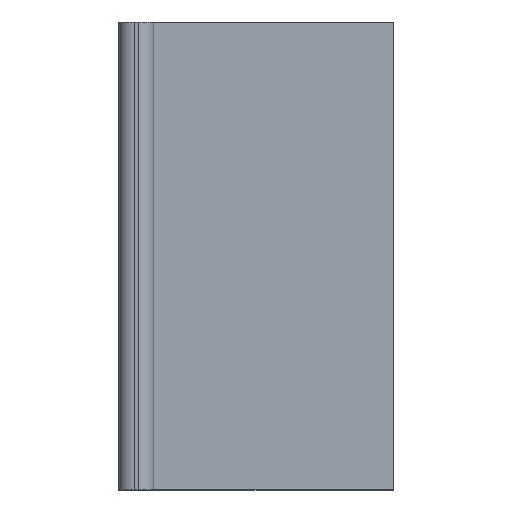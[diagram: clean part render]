
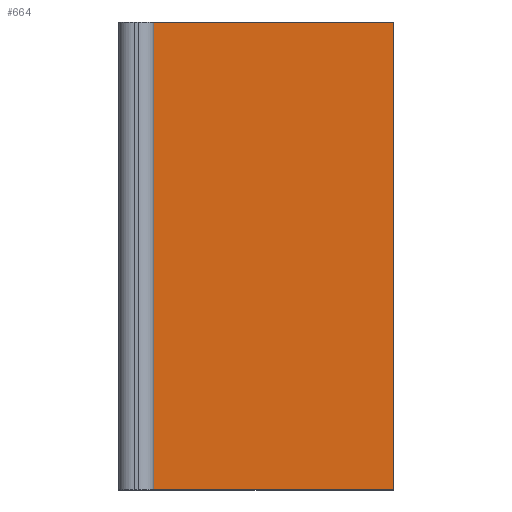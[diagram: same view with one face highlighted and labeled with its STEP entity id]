
A CAD part, top view. The second image highlights one B-rep face of the part: STEP entity #664.
In plain terms, the highlighted planar face has unit normal (0, 0, 1).
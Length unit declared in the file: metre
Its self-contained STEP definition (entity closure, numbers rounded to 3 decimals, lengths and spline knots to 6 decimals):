
#145=ORIENTED_EDGE('',*,*,#318,.T.);
#146=ORIENTED_EDGE('',*,*,#311,.T.);
#147=ORIENTED_EDGE('',*,*,#322,.T.);
#148=ORIENTED_EDGE('',*,*,#303,.F.);
#303=EDGE_CURVE('',#394,#395,#450,.T.);
#311=EDGE_CURVE('',#400,#402,#457,.T.);
#318=EDGE_CURVE('',#394,#400,#460,.T.);
#322=EDGE_CURVE('',#402,#395,#463,.T.);
#394=VERTEX_POINT('',#1066);
#395=VERTEX_POINT('',#1068);
#400=VERTEX_POINT('',#1079);
#402=VERTEX_POINT('',#1083);
#450=LINE('',#1067,#516);
#457=LINE('',#1084,#523);
#460=LINE('',#1097,#526);
#463=LINE('',#1104,#529);
#516=VECTOR('',#848,1.);
#523=VECTOR('',#859,1.);
#526=VECTOR('',#872,1.);
#529=VECTOR('',#879,1.);
#566=EDGE_LOOP('',(#145,#146,#147,#148));
#608=FACE_BOUND('',#566,.T.);
#643=PLANE('',#738);
#664=ADVANCED_FACE('',(#608),#643,.T.);
#738=AXIS2_PLACEMENT_3D('',#1112,#887,#888);
#848=DIRECTION('',(0.,-1.,0.));
#859=DIRECTION('',(0.,-1.,0.));
#872=DIRECTION('',(-1.,0.,0.));
#879=DIRECTION('',(1.,0.,0.));
#887=DIRECTION('',(0.,0.,1.));
#888=DIRECTION('',(1.,0.,0.));
#1066=CARTESIAN_POINT('',(-0.006,0.,0.006));
#1067=CARTESIAN_POINT('',(-0.006,-0.03,0.006));
#1068=CARTESIAN_POINT('',(-0.006,-0.06,0.006));
#1079=CARTESIAN_POINT('',(-0.03825,0.,0.006));
#1083=CARTESIAN_POINT('',(-0.03825,-0.06,0.006));
#1084=CARTESIAN_POINT('',(-0.03825,-0.03,0.006));
#1097=CARTESIAN_POINT('',(-0.03975,0.,0.006));
#1104=CARTESIAN_POINT('',(-0.03975,-0.06,0.006));
#1112=CARTESIAN_POINT('',(0.004375,0.,0.006));
